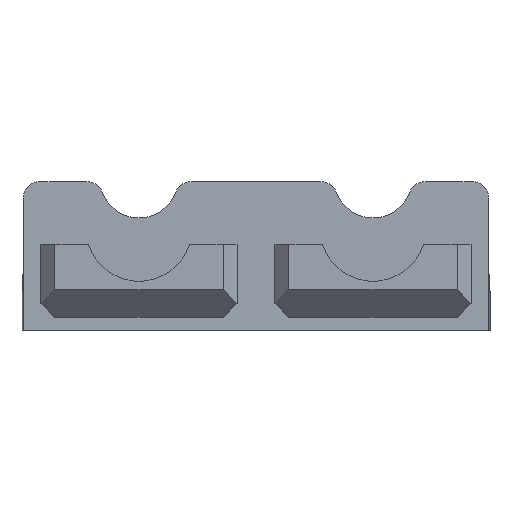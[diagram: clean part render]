
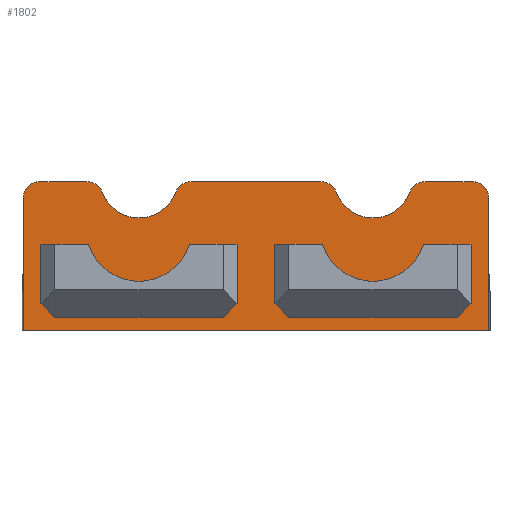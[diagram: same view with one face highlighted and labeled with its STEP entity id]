
A CAD part, left-side view. The second image highlights one B-rep face of the part: STEP entity #1802.
In plain terms, the highlighted planar face has unit normal (-1, 0, 0).
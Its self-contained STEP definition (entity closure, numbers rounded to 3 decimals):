
#15=FACE_BOUND('',#243,.T.);
#16=FACE_BOUND('',#244,.T.);
#132=FACE_OUTER_BOUND('',#242,.T.);
#242=EDGE_LOOP('',(#1463,#1464,#1465,#1466,#1467,#1468,#1469,#1470,#1471,
#1472,#1473,#1474,#1475,#1476));
#243=EDGE_LOOP('',(#1477,#1478,#1479,#1480,#1481,#1482));
#244=EDGE_LOOP('',(#1483,#1484,#1485,#1486,#1487,#1488));
#292=LINE('',#2615,#488);
#399=LINE('',#2896,#595);
#402=LINE('',#2902,#598);
#403=LINE('',#2906,#599);
#404=LINE('',#2914,#600);
#405=LINE('',#2920,#601);
#406=LINE('',#2923,#602);
#407=LINE('',#2925,#603);
#408=LINE('',#2929,#604);
#409=LINE('',#2931,#605);
#410=LINE('',#2932,#606);
#411=LINE('',#2935,#607);
#412=LINE('',#2937,#608);
#413=LINE('',#2939,#609);
#414=LINE('',#2941,#610);
#415=LINE('',#2944,#611);
#488=VECTOR('',#2064,10.);
#595=VECTOR('',#2379,10.);
#598=VECTOR('',#2384,10.);
#599=VECTOR('',#2387,10.);
#600=VECTOR('',#2394,10.);
#601=VECTOR('',#2401,10.);
#602=VECTOR('',#2402,10.);
#603=VECTOR('',#2403,10.);
#604=VECTOR('',#2406,10.);
#605=VECTOR('',#2407,10.);
#606=VECTOR('',#2408,10.);
#607=VECTOR('',#2409,10.);
#608=VECTOR('',#2410,10.);
#609=VECTOR('',#2411,10.);
#610=VECTOR('',#2412,10.);
#611=VECTOR('',#2415,10.);
#715=CIRCLE('',#1967,3.);
#717=CIRCLE('',#1971,3.);
#718=CIRCLE('',#1972,3.);
#719=CIRCLE('',#1973,7.);
#720=CIRCLE('',#1974,3.);
#721=CIRCLE('',#1975,3.);
#722=CIRCLE('',#1976,7.);
#723=CIRCLE('',#1977,3.);
#724=CIRCLE('',#1978,9.5);
#725=CIRCLE('',#1979,9.5);
#756=VERTEX_POINT('',#2612);
#757=VERTEX_POINT('',#2614);
#823=VERTEX_POINT('',#2886);
#824=VERTEX_POINT('',#2887);
#827=VERTEX_POINT('',#2895);
#829=VERTEX_POINT('',#2901);
#830=VERTEX_POINT('',#2903);
#831=VERTEX_POINT('',#2905);
#832=VERTEX_POINT('',#2907);
#833=VERTEX_POINT('',#2909);
#834=VERTEX_POINT('',#2911);
#835=VERTEX_POINT('',#2913);
#836=VERTEX_POINT('',#2915);
#837=VERTEX_POINT('',#2917);
#838=VERTEX_POINT('',#2921);
#839=VERTEX_POINT('',#2922);
#840=VERTEX_POINT('',#2924);
#841=VERTEX_POINT('',#2926);
#842=VERTEX_POINT('',#2928);
#843=VERTEX_POINT('',#2930);
#844=VERTEX_POINT('',#2933);
#845=VERTEX_POINT('',#2934);
#846=VERTEX_POINT('',#2936);
#847=VERTEX_POINT('',#2938);
#848=VERTEX_POINT('',#2940);
#849=VERTEX_POINT('',#2942);
#908=EDGE_CURVE('',#756,#757,#292,.T.);
#1045=EDGE_CURVE('',#823,#824,#715,.T.);
#1049=EDGE_CURVE('',#827,#824,#399,.T.);
#1052=EDGE_CURVE('',#756,#829,#402,.T.);
#1053=EDGE_CURVE('',#830,#829,#717,.T.);
#1054=EDGE_CURVE('',#830,#831,#403,.T.);
#1055=EDGE_CURVE('',#832,#831,#718,.T.);
#1056=EDGE_CURVE('',#832,#833,#719,.T.);
#1057=EDGE_CURVE('',#834,#833,#720,.T.);
#1058=EDGE_CURVE('',#834,#835,#404,.T.);
#1059=EDGE_CURVE('',#836,#835,#721,.T.);
#1060=EDGE_CURVE('',#836,#837,#722,.T.);
#1061=EDGE_CURVE('',#827,#837,#723,.T.);
#1062=EDGE_CURVE('',#823,#757,#405,.T.);
#1063=EDGE_CURVE('',#838,#839,#406,.T.);
#1064=EDGE_CURVE('',#839,#840,#407,.T.);
#1065=EDGE_CURVE('',#840,#841,#724,.T.);
#1066=EDGE_CURVE('',#841,#842,#408,.T.);
#1067=EDGE_CURVE('',#842,#843,#409,.T.);
#1068=EDGE_CURVE('',#843,#838,#410,.T.);
#1069=EDGE_CURVE('',#844,#845,#411,.T.);
#1070=EDGE_CURVE('',#845,#846,#412,.T.);
#1071=EDGE_CURVE('',#846,#847,#413,.T.);
#1072=EDGE_CURVE('',#847,#848,#414,.T.);
#1073=EDGE_CURVE('',#848,#849,#725,.T.);
#1074=EDGE_CURVE('',#849,#844,#415,.T.);
#1463=ORIENTED_EDGE('',*,*,#1052,.T.);
#1464=ORIENTED_EDGE('',*,*,#1053,.F.);
#1465=ORIENTED_EDGE('',*,*,#1054,.T.);
#1466=ORIENTED_EDGE('',*,*,#1055,.F.);
#1467=ORIENTED_EDGE('',*,*,#1056,.T.);
#1468=ORIENTED_EDGE('',*,*,#1057,.F.);
#1469=ORIENTED_EDGE('',*,*,#1058,.T.);
#1470=ORIENTED_EDGE('',*,*,#1059,.F.);
#1471=ORIENTED_EDGE('',*,*,#1060,.T.);
#1472=ORIENTED_EDGE('',*,*,#1061,.F.);
#1473=ORIENTED_EDGE('',*,*,#1049,.T.);
#1474=ORIENTED_EDGE('',*,*,#1045,.F.);
#1475=ORIENTED_EDGE('',*,*,#1062,.T.);
#1476=ORIENTED_EDGE('',*,*,#908,.F.);
#1477=ORIENTED_EDGE('',*,*,#1063,.T.);
#1478=ORIENTED_EDGE('',*,*,#1064,.T.);
#1479=ORIENTED_EDGE('',*,*,#1065,.T.);
#1480=ORIENTED_EDGE('',*,*,#1066,.T.);
#1481=ORIENTED_EDGE('',*,*,#1067,.T.);
#1482=ORIENTED_EDGE('',*,*,#1068,.T.);
#1483=ORIENTED_EDGE('',*,*,#1069,.T.);
#1484=ORIENTED_EDGE('',*,*,#1070,.T.);
#1485=ORIENTED_EDGE('',*,*,#1071,.T.);
#1486=ORIENTED_EDGE('',*,*,#1072,.T.);
#1487=ORIENTED_EDGE('',*,*,#1073,.T.);
#1488=ORIENTED_EDGE('',*,*,#1074,.T.);
#1701=PLANE('',#1970);
#1802=ADVANCED_FACE('',(#132,#15,#16),#1701,.F.);
#1967=AXIS2_PLACEMENT_3D('',#2888,#2371,#2372);
#1970=AXIS2_PLACEMENT_3D('',#2900,#2382,#2383);
#1971=AXIS2_PLACEMENT_3D('',#2904,#2385,#2386);
#1972=AXIS2_PLACEMENT_3D('',#2908,#2388,#2389);
#1973=AXIS2_PLACEMENT_3D('',#2910,#2390,#2391);
#1974=AXIS2_PLACEMENT_3D('',#2912,#2392,#2393);
#1975=AXIS2_PLACEMENT_3D('',#2916,#2395,#2396);
#1976=AXIS2_PLACEMENT_3D('',#2918,#2397,#2398);
#1977=AXIS2_PLACEMENT_3D('',#2919,#2399,#2400);
#1978=AXIS2_PLACEMENT_3D('',#2927,#2404,#2405);
#1979=AXIS2_PLACEMENT_3D('',#2943,#2413,#2414);
#2064=DIRECTION('',(0.,1.,0.));
#2371=DIRECTION('center_axis',(1.,0.,0.));
#2372=DIRECTION('ref_axis',(0.,0.707,0.707));
#2379=DIRECTION('',(0.,1.,0.));
#2382=DIRECTION('center_axis',(1.,0.,0.));
#2383=DIRECTION('ref_axis',(0.,1.,0.));
#2384=DIRECTION('',(0.,0.,1.));
#2385=DIRECTION('center_axis',(1.,0.,0.));
#2386=DIRECTION('ref_axis',(0.,-0.707,0.707));
#2387=DIRECTION('',(0.,1.,0.));
#2388=DIRECTION('center_axis',(1.,0.,0.));
#2389=DIRECTION('ref_axis',(0.,0.572,0.82));
#2390=DIRECTION('center_axis',(1.,0.,0.));
#2391=DIRECTION('ref_axis',(0.,1.,0.));
#2392=DIRECTION('center_axis',(1.,0.,0.));
#2393=DIRECTION('ref_axis',(0.,-0.572,0.82));
#2394=DIRECTION('',(0.,1.,0.));
#2395=DIRECTION('center_axis',(1.,0.,0.));
#2396=DIRECTION('ref_axis',(0.,0.572,0.82));
#2397=DIRECTION('center_axis',(1.,0.,0.));
#2398=DIRECTION('ref_axis',(0.,1.,0.));
#2399=DIRECTION('center_axis',(1.,0.,0.));
#2400=DIRECTION('ref_axis',(0.,-0.572,0.82));
#2401=DIRECTION('',(0.,0.,-1.));
#2402=DIRECTION('',(0.,0.,1.));
#2403=DIRECTION('',(0.,-1.,0.));
#2404=DIRECTION('center_axis',(-1.,0.,0.));
#2405=DIRECTION('ref_axis',(0.,1.,0.));
#2406=DIRECTION('',(0.,-1.,0.));
#2407=DIRECTION('',(0.,0.,-1.));
#2408=DIRECTION('',(0.,1.,0.));
#2409=DIRECTION('',(0.,0.,-1.));
#2410=DIRECTION('',(0.,1.,0.));
#2411=DIRECTION('',(0.,0.,1.));
#2412=DIRECTION('',(0.,-1.,0.));
#2413=DIRECTION('center_axis',(-1.,0.,0.));
#2414=DIRECTION('ref_axis',(0.,1.,0.));
#2415=DIRECTION('',(0.,-1.,0.));
#2612=CARTESIAN_POINT('',(96.15,-20.8,-174.478));
#2614=CARTESIAN_POINT('',(96.15,62.8,-174.478));
#2615=CARTESIAN_POINT('',(96.15,-20.8,-174.478));
#2886=CARTESIAN_POINT('',(96.15,62.8,-150.76));
#2887=CARTESIAN_POINT('',(96.15,59.8,-147.76));
#2888=CARTESIAN_POINT('Origin',(96.15,59.8,-150.76));
#2895=CARTESIAN_POINT('',(96.15,51.382,-147.76));
#2896=CARTESIAN_POINT('',(96.15,21.2,-147.76));
#2900=CARTESIAN_POINT('Origin',(96.15,0.,-159.942));
#2901=CARTESIAN_POINT('',(96.15,-20.8,-150.76));
#2902=CARTESIAN_POINT('',(96.15,-20.8,-153.851));
#2903=CARTESIAN_POINT('',(96.15,-17.8,-147.76));
#2904=CARTESIAN_POINT('Origin',(96.15,-17.8,-150.76));
#2905=CARTESIAN_POINT('',(96.15,-9.382,-147.76));
#2906=CARTESIAN_POINT('',(96.15,-20.8,-147.76));
#2907=CARTESIAN_POINT('',(96.15,-6.567,-149.722));
#2908=CARTESIAN_POINT('Origin',(96.15,-9.382,-150.76));
#2909=CARTESIAN_POINT('',(96.15,6.567,-149.722));
#2910=CARTESIAN_POINT('Origin',(96.15,0.,-147.298));
#2911=CARTESIAN_POINT('',(96.15,9.382,-147.76));
#2912=CARTESIAN_POINT('Origin',(96.15,9.382,-150.76));
#2913=CARTESIAN_POINT('',(96.15,32.618,-147.76));
#2914=CARTESIAN_POINT('',(96.15,21.2,-147.76));
#2915=CARTESIAN_POINT('',(96.15,35.433,-149.722));
#2916=CARTESIAN_POINT('Origin',(96.15,32.618,-150.76));
#2917=CARTESIAN_POINT('',(96.15,48.567,-149.722));
#2918=CARTESIAN_POINT('Origin',(96.15,42.,-147.298));
#2919=CARTESIAN_POINT('Origin',(96.15,51.382,-150.76));
#2920=CARTESIAN_POINT('',(96.15,62.8,-166.033));
#2921=CARTESIAN_POINT('',(96.15,15.1,-172.15));
#2922=CARTESIAN_POINT('',(96.15,15.1,-159.));
#2923=CARTESIAN_POINT('',(96.15,15.1,-166.046));
#2924=CARTESIAN_POINT('',(96.15,9.062,-159.));
#2925=CARTESIAN_POINT('',(96.15,0.,-159.));
#2926=CARTESIAN_POINT('',(96.15,-9.062,-159.));
#2927=CARTESIAN_POINT('Origin',(96.15,0.,-156.15));
#2928=CARTESIAN_POINT('',(96.15,-15.1,-159.));
#2929=CARTESIAN_POINT('',(96.15,0.,-159.));
#2930=CARTESIAN_POINT('',(96.15,-15.1,-172.15));
#2931=CARTESIAN_POINT('',(96.15,-15.1,-160.));
#2932=CARTESIAN_POINT('',(96.15,0.,-172.15));
#2933=CARTESIAN_POINT('',(96.15,26.9,-159.));
#2934=CARTESIAN_POINT('',(96.15,26.9,-172.15));
#2935=CARTESIAN_POINT('',(96.15,26.9,-160.));
#2936=CARTESIAN_POINT('',(96.15,57.1,-172.15));
#2937=CARTESIAN_POINT('',(96.15,42.,-172.15));
#2938=CARTESIAN_POINT('',(96.15,57.1,-159.));
#2939=CARTESIAN_POINT('',(96.15,57.1,-166.046));
#2940=CARTESIAN_POINT('',(96.15,51.062,-159.));
#2941=CARTESIAN_POINT('',(96.15,42.,-159.));
#2942=CARTESIAN_POINT('',(96.15,32.938,-159.));
#2943=CARTESIAN_POINT('Origin',(96.15,42.,-156.15));
#2944=CARTESIAN_POINT('',(96.15,42.,-159.));
